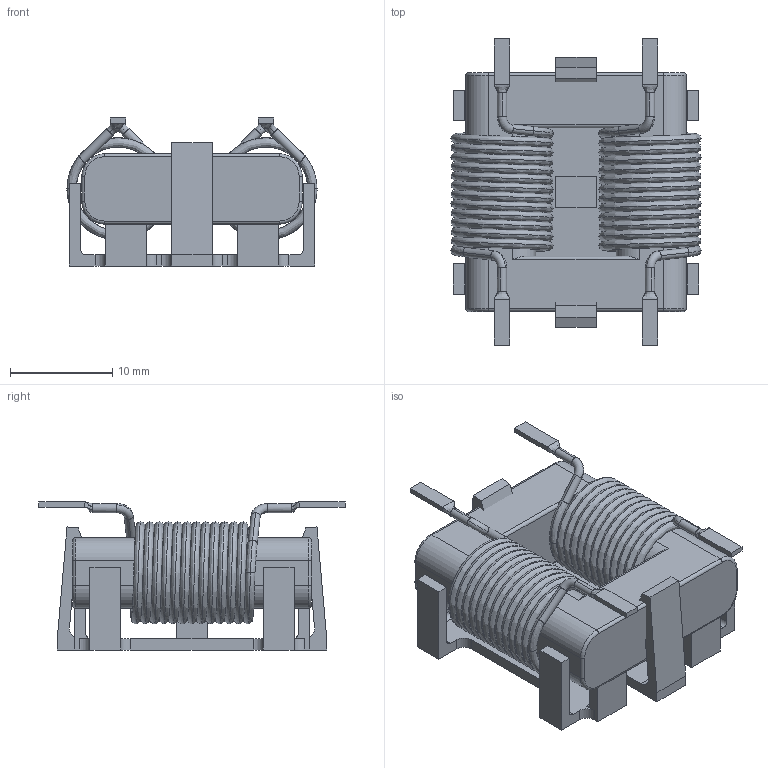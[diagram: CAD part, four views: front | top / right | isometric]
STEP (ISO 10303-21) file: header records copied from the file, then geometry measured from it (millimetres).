
FILE_DESCRIPTION (( 'STEP AP214' ), '1' );
FILE_NAME ('成品线圈3D图-SMD-0766-481.STEP', '2025-08-22T01:45:11', ( '微软用户' ), ( '微软中国' ), 'SwSTEP 2.0', 'SolidWorks 2018', '' );
FILE_SCHEMA (( 'AUTOMOTIVE_DESIGN' ));
Length unit declared in the file: millimetre
Products named in the file (3): 嘎殤; 成品线圈3D图-SMD-0766-481; 线圈3D图-SMD-0766-481
Assembly tree (2 placements, depth 2):
  成品线圈3D图-SMD-0766-481
    线圈3D图-SMD-0766-481
    嘎殤
Bounding box: 24.49 x 30 x 14.5 mm (x, y, z)
Volume: 3862.3 mm3; surface area: 5368.7 mm2
Topology: 6 solids, 6 shells, 217 faces, 568 edges, 364 vertices
Faces by surface type: plane 111, cylinder 62, bspline 28, torus 16
Entity records: 15924 total; most frequent: CARTESIAN_POINT 8626, ORIENTED_EDGE 1136, DIRECTION 1050, EDGE_CURVE 568, VERTEX_POINT 364, AXIS2_PLACEMENT_3D 359, LINE 332, VECTOR 332
